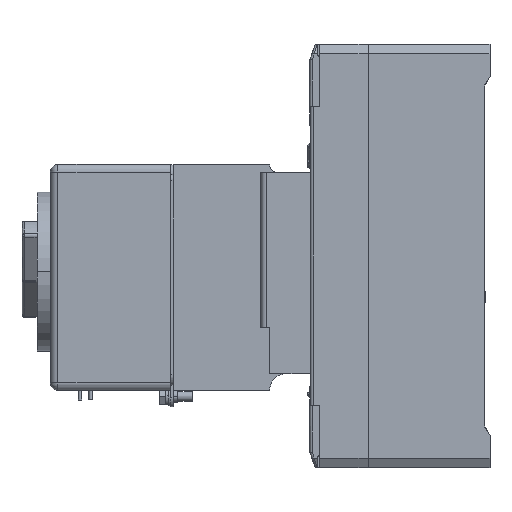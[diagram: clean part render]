
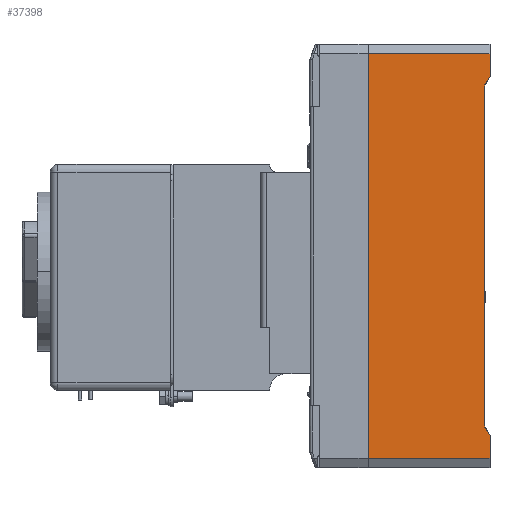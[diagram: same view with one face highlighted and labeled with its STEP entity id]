
A CAD part, left-side view. The second image highlights one B-rep face of the part: STEP entity #37398.
In plain terms, the highlighted planar face has unit normal (-1, 0, 0).
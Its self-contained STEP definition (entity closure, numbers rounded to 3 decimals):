
#2647 = VERTEX_POINT ( 'NONE', #22850 ) ;
#2649 = VERTEX_POINT ( 'NONE', #22856 ) ;
#2650 = VERTEX_POINT ( 'NONE', #22834 ) ;
#2658 = VERTEX_POINT ( 'NONE', #22819 ) ;
#2969 = VERTEX_POINT ( 'NONE', #68088 ) ;
#2970 = VERTEX_POINT ( 'NONE', #56080 ) ;
#3217 = VERTEX_POINT ( 'NONE', #68371 ) ;
#3225 = VERTEX_POINT ( 'NONE', #68363 ) ;
#9589 = CARTESIAN_POINT ( 'NONE',  ( -112.385, 25.175, -60.14 ) ) ;
#9594 = DIRECTION ( 'NONE',  ( 0., 0.5, -0.866 ) ) ;
#9597 = CARTESIAN_POINT ( 'NONE',  ( -112.385, -64.45, -111.885 ) ) ;
#9598 = DIRECTION ( 'NONE',  ( 0., 0., 1. ) ) ;
#9603 = CARTESIAN_POINT ( 'NONE',  ( -112.385, -64.45, -111.885 ) ) ;
#9605 = CARTESIAN_POINT ( 'NONE',  ( -112.385, -71.72, -107.688 ) ) ;
#9607 = DIRECTION ( 'NONE',  ( 0., -0.5, -0.866 ) ) ;
#9612 = DIRECTION ( 'NONE',  ( 0., 0., 1. ) ) ;
#10574 = LINE ( 'NONE', #9589, #10588 ) ;
#10588 = VECTOR ( 'NONE', #9594, 1000. ) ;
#10591 = LINE ( 'NONE', #9597, #10600 ) ;
#10600 = VECTOR ( 'NONE', #9598, 1000. ) ;
#10615 = LINE ( 'NONE', #9605, #10624 ) ;
#10621 = LINE ( 'NONE', #9603, #10642 ) ;
#10624 = VECTOR ( 'NONE', #9607, 1000. ) ;
#10642 = VECTOR ( 'NONE', #9612, 1000. ) ;
#10721 = CARTESIAN_POINT ( 'NONE',  ( -112.385, 0., -111.885 ) ) ;
#10725 = DIRECTION ( 'NONE',  ( 0., 0., 1. ) ) ;
#11763 = LINE ( 'NONE', #10721, #11772 ) ;
#11772 = VECTOR ( 'NONE', #10725, 1000. ) ;
#15988 = EDGE_LOOP ( 'NONE', ( #95243, #95247, #95251, #95255, #95259, #95263, #95267, #95270 ) ) ;
#21189 = CARTESIAN_POINT ( 'NONE',  ( -112.385, -64.45, 106.885 ) ) ;
#21209 = CARTESIAN_POINT ( 'NONE',  ( -112.385, -64.45, -106.885 ) ) ;
#21212 = DIRECTION ( 'NONE',  ( 0., -1., 0. ) ) ;
#21213 = DIRECTION ( 'NONE',  ( 0., 1., 0. ) ) ;
#22819 = CARTESIAN_POINT ( 'NONE',  ( -112.385, -64.45, -106.885 ) ) ;
#22834 = CARTESIAN_POINT ( 'NONE',  ( -112.385, -64.45, -95.096 ) ) ;
#22850 = CARTESIAN_POINT ( 'NONE',  ( -112.385, -64.45, 106.885 ) ) ;
#22856 = CARTESIAN_POINT ( 'NONE',  ( -112.385, -64.45, 95.096 ) ) ;
#31740 = CARTESIAN_POINT ( 'NONE',  ( -112.385, -64.45, -111.885 ) ) ;
#31748 = PLANE ( 'NONE',  #77890 ) ;
#31750 = DIRECTION ( 'NONE',  ( -1., 0., 0. ) ) ;
#31751 = DIRECTION ( 'NONE',  ( 0., 0., 1. ) ) ;
#34878 = LINE ( 'NONE', #21189, #34885 ) ;
#34880 = LINE ( 'NONE', #21209, #34883 ) ;
#34883 = VECTOR ( 'NONE', #21212, 1000. ) ;
#34885 = VECTOR ( 'NONE', #21213, 1000. ) ;
#37398 = ADVANCED_FACE ( 'NONE', ( #79105 ), #31748, .T. ) ;
#56080 = CARTESIAN_POINT ( 'NONE',  ( -112.385, 0., -106.885 ) ) ;
#57013 = EDGE_CURVE ( 'NONE', #2970, #2658, #34880, .T. ) ;
#57014 = EDGE_CURVE ( 'NONE', #2647, #2969, #34878, .T. ) ;
#57088 = EDGE_CURVE ( 'NONE', #2649, #3225, #10574, .T. ) ;
#57090 = EDGE_CURVE ( 'NONE', #2649, #2647, #10591, .T. ) ;
#57094 = EDGE_CURVE ( 'NONE', #3217, #2650, #10615, .T. ) ;
#57097 = EDGE_CURVE ( 'NONE', #2658, #2650, #10621, .T. ) ;
#57407 = EDGE_CURVE ( 'NONE', #2970, #2969, #11763, .T. ) ;
#60701 = CARTESIAN_POINT ( 'NONE',  ( -112.385, -61.45, -111.885 ) ) ;
#60704 = DIRECTION ( 'NONE',  ( 0., 0., -1. ) ) ;
#66666 = LINE ( 'NONE', #60701, #66672 ) ;
#66672 = VECTOR ( 'NONE', #60704, 1000. ) ;
#68088 = CARTESIAN_POINT ( 'NONE',  ( -112.385, 0., 106.885 ) ) ;
#68363 = CARTESIAN_POINT ( 'NONE',  ( -112.385, -61.45, 89.9 ) ) ;
#68371 = CARTESIAN_POINT ( 'NONE',  ( -112.385, -61.45, -89.9 ) ) ;
#77890 = AXIS2_PLACEMENT_3D ( 'NONE', #31740, #31750, #31751 ) ;
#79105 = FACE_OUTER_BOUND ( 'NONE', #15988, .T. ) ;
#88062 = EDGE_CURVE ( 'NONE', #3225, #3217, #66666, .T. ) ;
#95243 = ORIENTED_EDGE ( 'NONE', *, *, #57088, .F. ) ;
#95247 = ORIENTED_EDGE ( 'NONE', *, *, #57090, .T. ) ;
#95251 = ORIENTED_EDGE ( 'NONE', *, *, #57014, .T. ) ;
#95255 = ORIENTED_EDGE ( 'NONE', *, *, #57407, .F. ) ;
#95259 = ORIENTED_EDGE ( 'NONE', *, *, #57013, .T. ) ;
#95263 = ORIENTED_EDGE ( 'NONE', *, *, #57097, .T. ) ;
#95267 = ORIENTED_EDGE ( 'NONE', *, *, #57094, .F. ) ;
#95270 = ORIENTED_EDGE ( 'NONE', *, *, #88062, .F. ) ;
